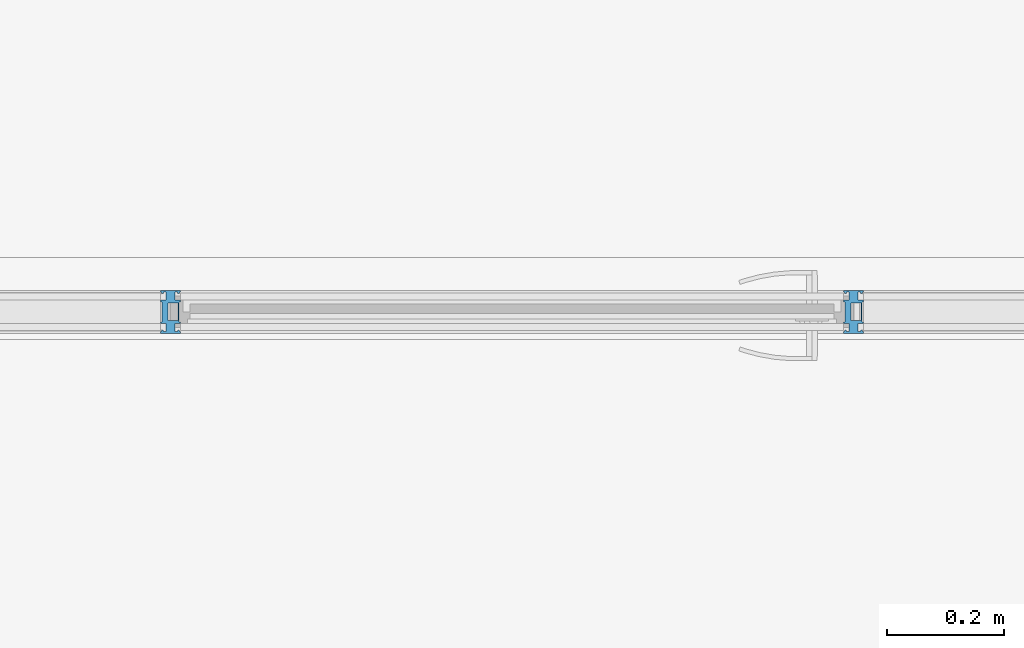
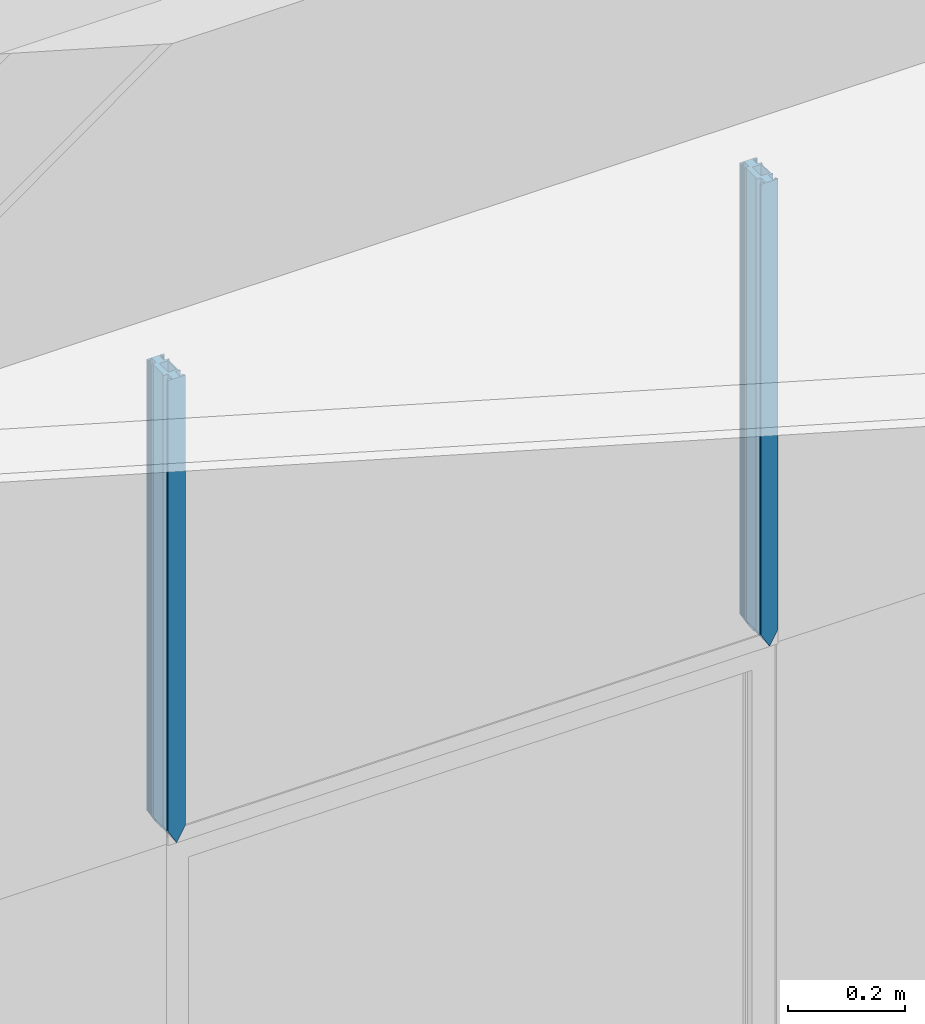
# One storey, part 7 of 43: 2 members, 1 element without a shape of its own.
"""IFC2X3 building model written with IfcOpenShell, lengths in millimetres."""

from ifc_helpers import new_model, entity, si_unit, converted_unit, derived_unit, money_unit, direction, frame, origin_with_axes, place, context, subcontext, project, spatial, faceted_brep, source, transform, mapped, material, material_list, type_object, element, aggregate, save


model = new_model("IFC2X3")

# Units and contexts
model_context = context("Model", 3, precision=0.01, world=origin_with_axes(), true_north=direction((0.0, 1.0)))
body_context = subcontext(model_context, "Body", "Model", "MODEL_VIEW")
ifc_project = project(units=[si_unit("LENGTHUNIT", "METRE", prefix="MILLI"), si_unit("AREAUNIT", "SQUARE_METRE"), si_unit("VOLUMEUNIT", "CUBIC_METRE"), converted_unit("PLANEANGLEUNIT", "DEGREE", entity("IfcPlaneAngleMeasure", 0.0174532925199), si_unit("PLANEANGLEUNIT", "RADIAN"), dimensions=[0, 0, 0, 0, 0, 0, 0]), si_unit("SOLIDANGLEUNIT", "STERADIAN"), money_unit("EUR"), converted_unit("TIMEUNIT", "Year", entity("IfcTimeMeasure", 31556926.0), si_unit("TIMEUNIT", "SECOND"), dimensions=[0, 0, 1, 0, 0, 0, 0]), si_unit("MASSUNIT", "GRAM", prefix="KILO"), si_unit("THERMODYNAMICTEMPERATUREUNIT", "DEGREE_CELSIUS"), si_unit("LUMINOUSINTENSITYUNIT", "LUMEN"), si_unit("ENERGYUNIT", "JOULE", prefix="MEGA"), derived_unit("THERMALCONDUCTANCEUNIT", [(si_unit("POWERUNIT", "WATT"), 1), (si_unit("LENGTHUNIT", "METRE"), -1), (si_unit("THERMODYNAMICTEMPERATUREUNIT", "KELVIN"), -1)]), derived_unit("SPECIFICHEATCAPACITYUNIT", [(si_unit("ENERGYUNIT", "JOULE"), 1), (si_unit("MASSUNIT", "GRAM", prefix="KILO"), -1), (si_unit("THERMODYNAMICTEMPERATUREUNIT", "KELVIN"), -1)]), derived_unit("MASSDENSITYUNIT", [(si_unit("MASSUNIT", "GRAM", prefix="KILO"), 1), (si_unit("VOLUMEUNIT", "CUBIC_METRE"), -1)])], contexts=[model_context])

# Site, building, storey
site_placement = place(None, origin_with_axes())
site = spatial("IfcSite", under=ifc_project, at=site_placement, Name="L.Koidula tn 11b", CompositionType="ELEMENT")
building_placement = place(site_placement, origin_with_axes())
building = spatial("IfcBuilding", under=site, at=building_placement, Name="Rakvere Riigigümnaasium", CompositionType="ELEMENT")
storey_placement = place(building_placement, frame((0.0, 0.0, 6665.0), z_axis=(0.0, 0.0, 1.0), x_axis=(1.0, 0.0, 0.0)))
storey = spatial("IfcBuildingStorey", under=building, at=storey_placement, Name="3.korrus +6,66", CompositionType="ELEMENT", Elevation=6665.0)

# Curtain wall, members
curtain_wall_type = type_object("IfcCurtainWallType", Name="Curtain Wall Type", PredefinedType="NOTDEFINED")
curtain_wall_placement = place(storey_placement, frame((58878.6347232, 19272.4397072, 0.0), z_axis=(0.0, 0.0, 1.0), x_axis=(1.0, 0.0, 0.0)))
curtain_wall = element("IfcCurtainWall", 1, at=curtain_wall_placement, inside=storey, type_object=curtain_wall_type, Name="SKLF-29")
ifc_material_1 = material(Name="Klaasvill")
ifc_material_2 = material(Name="Teras RAL7012")
ifc_material_list = material_list([ifc_material_1, ifc_material_2])
member_type = type_object("IfcMemberType", Name="Siseklaasfassaad-Vaheprofiil-Doubleline30 34 x 42", PredefinedType="MULLION")
shared_shape = source(origin_with_axes(), body_context, "Body", "Brep", [
    faceted_brep([(15.4955493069, 27.0307503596, 27.3450735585), (15.7655837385, 28.0385325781, 27.8216046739), (15.7655837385, 28.0385325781, 969.999980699), (15.4955493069, 27.0307503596, 969.999980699), (15.5126239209, 29.0161444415, 27.3752052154), (14.75780152, 26.2930025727, 26.0431663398), (13.7500193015, 26.0229681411, 24.2647280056), (12.742237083, 26.2930025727, 22.4862896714), (12.004489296, 27.0307503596, 21.1843824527), (11.987414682, 29.0161444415, 21.1542507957), (15.5126239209, 29.0161444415, 969.999980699), (11.987414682, 29.0161444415, 969.999980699), (12.004489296, 27.0307503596, 969.999980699), (12.742237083, 26.2930025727, 969.999980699), (13.7500193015, 26.0229681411, 969.999980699), (14.75780152, 26.2930025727, 969.999980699)], [[[0, 1, 2, 3]], [[4, 1, 0, 5, 6, 7, 8, 9]], [[1, 4, 10, 2]], [[3, 2, 10, 11, 12, 13, 14, 15]], [[5, 0, 3, 15]], [[6, 5, 15, 14]], [[7, 6, 14, 13]], [[8, 7, 13, 12]], [[9, 8, 12, 11]], [[4, 9, 11, 10]]]),
    faceted_brep([(11.987414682, -39.0161444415, 21.1542507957), (15.5126239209, -39.0161444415, 27.3752052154), (15.5126239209, -39.0161444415, 969.999980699), (11.987414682, -39.0161444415, 969.999980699), (15.4955493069, -37.0307503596, 27.3450735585), (11.7344548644, -38.0385325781, 20.7078513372), (12.004489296, -37.0307503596, 21.1843824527), (12.742237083, -36.2930025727, 22.4862896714), (13.7500193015, -36.0229681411, 24.2647280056), (14.75780152, -36.2930025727, 26.0431663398), (15.4955493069, -37.0307503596, 969.999980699), (12.004489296, -37.0307503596, 969.999980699), (11.7344548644, -38.0385325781, 969.999980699), (14.75780152, -36.2930025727, 969.999980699), (13.7500193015, -36.0229681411, 969.999980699), (12.742237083, -36.2930025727, 969.999980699)], [[[0, 1, 2, 3]], [[4, 1, 0, 5, 6, 7, 8, 9]], [[1, 4, 10, 2]], [[11, 12, 3, 2, 10, 13, 14, 15]], [[5, 0, 3, 12]], [[6, 5, 12, 11]], [[7, 6, 11, 15]], [[8, 7, 15, 14]], [[9, 8, 14, 13]], [[4, 9, 13, 10]]]),
    faceted_brep([(-12.004489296, 27.0307503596, 21.1843824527), (-11.7344548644, 28.0385325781, 20.7078513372), (-11.7344548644, 28.0385325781, 969.999980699), (-12.004489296, 27.0307503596, 969.999980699), (-11.987414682, 29.0161444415, 21.1542507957), (-12.742237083, 26.2930025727, 22.4862896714), (-13.7500193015, 26.0229681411, 24.2647280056), (-14.75780152, 26.2930025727, 26.0431663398), (-15.4955493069, 27.0307503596, 27.3450735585), (-15.7655837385, 28.0385325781, 27.8216046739), (-11.987414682, 29.0161444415, 969.999980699), (-12.742237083, 26.2930025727, 969.999980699), (-15.7655837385, 28.0385325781, 969.999980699), (-15.4955493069, 27.0307503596, 969.999980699), (-14.75780152, 26.2930025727, 969.999980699), (-13.7500193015, 26.0229681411, 969.999980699)], [[[0, 1, 2, 3]], [[4, 1, 0, 5, 6, 7, 8, 9]], [[1, 4, 10, 2]], [[11, 3, 2, 10, 12, 13, 14, 15]], [[5, 0, 3, 11]], [[6, 5, 11, 15]], [[7, 6, 15, 14]], [[8, 7, 14, 13]], [[9, 8, 13, 12]], [[4, 9, 12, 10]]]),
    faceted_brep([(-11.987414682, -39.0161444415, 21.1542507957), (-11.7344548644, -38.0385325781, 20.7078513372), (-11.7344548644, -38.0385325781, 969.999980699), (-11.987414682, -39.0161444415, 969.999980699), (-12.004489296, -37.0307503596, 21.1843824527), (-15.5126239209, -39.0161444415, 27.3752052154), (-15.4955493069, -37.0307503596, 27.3450735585), (-14.75780152, -36.2930025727, 26.0431663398), (-13.7500193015, -36.0229681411, 24.2647280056), (-12.742237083, -36.2930025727, 22.4862896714), (-12.004489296, -37.0307503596, 969.999980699), (-12.742237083, -36.2930025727, 969.999980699), (-13.7500193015, -36.0229681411, 969.999980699), (-14.75780152, -36.2930025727, 969.999980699), (-15.4955493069, -37.0307503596, 969.999980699), (-15.5126239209, -39.0161444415, 969.999980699)], [[[0, 1, 2, 3]], [[4, 1, 0, 5, 6, 7, 8, 9]], [[1, 4, 10, 2]], [[11, 12, 13, 14, 15, 3, 2, 10]], [[5, 0, 3, 15]], [[6, 5, 15, 14]], [[7, 6, 14, 13]], [[8, 7, 13, 12]], [[9, 8, 12, 11]], [[4, 9, 11, 10]]]),
    faceted_brep([(-12.8000002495, 10.0000001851, 22.588224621), (0.0, 10.0000001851, 0.0), (4.0000003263, 10.0000001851, 7.05882063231), (4.0000003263, 10.0000001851, 969.999980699), (-12.8000002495, 10.0000001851, 969.999980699), (-14.8000001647, 12.0000001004, 26.1176344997), (0.0, 12.0000001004, 0.0), (-12.8000002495, -20.0000001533, 22.588224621), (0.0, -20.0000001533, 0.0), (0.0, -22.0000000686, 0.0), (-14.8000001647, -22.0000000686, 26.1176344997), (14.8000003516, 12.0000001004, 26.1176348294), (14.8000003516, -22.0000000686, 26.1176348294), (4.0000003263, -20.0000001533, 7.05882063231), (4.0000003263, -20.0000001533, 969.999980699), (14.8000003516, 12.0000001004, 969.999980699), (-3.08905781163e-07, 12.0000001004, 969.999980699), (-14.8000001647, 12.0000001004, 969.999980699), (-14.8000001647, -22.0000000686, 969.999980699), (-3.08905781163e-07, -22.0000000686, 969.999980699), (14.8000003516, -22.0000000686, 969.999980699), (-12.8000002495, -20.0000001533, 969.999980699)], [[[0, 1, 2, 3, 4]], [[5, 6, 1, 0, 7, 8, 9, 10]], [[6, 11, 12, 9, 8, 13, 2, 1]], [[2, 13, 14, 3]], [[15, 16, 17, 18, 19, 20], [3, 14, 21, 4]], [[7, 0, 4, 21]], [[6, 5, 17, 16]], [[8, 7, 21, 14, 13]], [[10, 9, 19, 18]], [[5, 10, 18, 17]], [[11, 6, 16, 15]], [[12, 11, 15, 20]], [[9, 12, 20, 19]]]),
    faceted_brep([(17.0000193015, 29.0161446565, 30.0000193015), (17.0000193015, 32.0000000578, 30.0000193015), (17.0000193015, 32.0000000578, 969.999980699), (17.0000193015, 29.0161446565, 969.999980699), (0.0, 32.0000000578, 0.0), (15.5126239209, 29.0161444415, 27.3752052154), (11.987414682, 29.0161444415, 21.1542507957), (7.50000002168, 29.0161446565, 13.2352876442), (7.50000002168, 15.0000000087, 13.2352876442), (17.0000193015, 15.0000000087, 30.0000193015), (17.0000193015, 12.0, 30.0000193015), (14.8000003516, 12.0000001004, 26.1176348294), (0.0, 12.0, 0.0), (0.0, 32.0000000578, 969.999980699), (15.5126239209, 29.0161444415, 969.999980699), (0.0, 12.0, 969.999980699), (14.8000003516, 12.0000001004, 969.999980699), (17.0000193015, 12.0, 969.999980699), (17.0000193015, 15.0000000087, 969.999980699), (7.50000002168, 15.0000000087, 969.999980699), (7.50000002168, 29.0161446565, 969.999980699), (11.987414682, 29.0161444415, 969.999980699)], [[[0, 1, 2, 3]], [[4, 1, 0, 5, 6, 7, 8, 9, 10, 11, 12]], [[1, 4, 13, 2]], [[14, 3, 2, 13, 15, 16, 17, 18, 19, 20, 21]], [[5, 0, 3, 14]], [[6, 5, 14, 21]], [[7, 6, 21, 20]], [[8, 7, 20, 19]], [[9, 8, 19, 18]], [[10, 9, 18, 17]], [[11, 10, 17, 16]], [[12, 11, 16, 15]], [[4, 12, 15, 13]]]),
    faceted_brep([(17.0000193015, -24.9999999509, 30.0000193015), (17.0000193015, -21.9999999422, 30.0000193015), (17.0000193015, -21.9999999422, 969.999980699), (17.0000193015, -24.9999999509, 969.999980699), (14.8000003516, -22.0000000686, 26.1176348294), (7.50000002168, -24.9999999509, 13.2352876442), (7.50000002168, -39.0161445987, 13.2352876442), (11.987414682, -39.0161444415, 21.1542507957), (15.5126239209, -39.0161444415, 27.3752052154), (17.0000193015, -39.0161445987, 30.0000193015), (17.0000193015, -42.0, 30.0000193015), (0.0, -42.0, 0.0), (0.0, -21.9999999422, 0.0), (14.8000003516, -22.0000000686, 969.999980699), (0.0, -21.9999999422, 969.999980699), (0.0, -42.0, 969.999980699), (17.0000193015, -42.0, 969.999980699), (17.0000193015, -39.0161445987, 969.999980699), (15.5126239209, -39.0161444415, 969.999980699), (11.987414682, -39.0161444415, 969.999980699), (7.50000002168, -39.0161445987, 969.999980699), (7.50000002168, -24.9999999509, 969.999980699)], [[[0, 1, 2, 3]], [[4, 1, 0, 5, 6, 7, 8, 9, 10, 11, 12]], [[1, 4, 13, 2]], [[3, 2, 13, 14, 15, 16, 17, 18, 19, 20, 21]], [[5, 0, 3, 21]], [[6, 5, 21, 20]], [[7, 6, 20, 19]], [[8, 7, 19, 18]], [[9, 8, 18, 17]], [[10, 9, 17, 16]], [[11, 10, 16, 15]], [[12, 11, 15, 14]], [[4, 12, 14, 13]]]),
    faceted_brep([(0.0, 12.0, 0.0), (0.0, 32.0, 0.0), (0.0, 32.0, 969.999980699), (0.0, 12.0, 969.999980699), (-17.0000193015, 32.0, 30.0000193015), (-14.8000001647, 12.0000001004, 26.1176344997), (-17.0000193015, 12.0, 30.0000193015), (-17.0000193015, 15.0, 30.0000193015), (-7.49999999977, 15.0, 13.2352876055), (-7.49999999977, 29.0161444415, 13.2352876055), (-11.987414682, 29.0161444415, 21.1542507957), (-15.5126239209, 29.0161444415, 27.3752052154), (-17.0000193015, 29.0161444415, 30.0000193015), (-17.0000193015, 32.0, 969.999980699), (-17.0000193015, 15.0, 969.999980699), (-17.0000193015, 12.0, 969.999980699), (-14.8000001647, 12.0000001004, 969.999980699), (-17.0000193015, 29.0161444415, 969.999980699), (-15.5126239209, 29.0161444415, 969.999980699), (-11.987414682, 29.0161444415, 969.999980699), (-7.49999999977, 29.0161444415, 969.999980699), (-7.49999999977, 15.0, 969.999980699)], [[[0, 1, 2, 3]], [[4, 1, 0, 5, 6, 7, 8, 9, 10, 11, 12]], [[1, 4, 13, 2]], [[14, 15, 16, 3, 2, 13, 17, 18, 19, 20, 21]], [[5, 0, 3, 16]], [[6, 5, 16, 15]], [[7, 6, 15, 14]], [[8, 7, 14, 21]], [[9, 8, 21, 20]], [[10, 9, 20, 19]], [[11, 10, 19, 18]], [[12, 11, 18, 17]], [[4, 12, 17, 13]]]),
    faceted_brep([(0.0, -42.0, 0.0), (0.0, -22.0, 0.0), (0.0, -22.0, 969.999980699), (0.0, -42.0, 969.999980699), (-14.8000001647, -22.0000000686, 26.1176344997), (-17.0000193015, -42.0, 30.0000193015), (-17.0000193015, -39.0161444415, 30.0000193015), (-15.5126239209, -39.0161444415, 27.3752052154), (-11.987414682, -39.0161444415, 21.1542507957), (-7.49999999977, -39.0161444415, 13.2352876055), (-7.49999999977, -25.0, 13.2352876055), (-17.0000193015, -25.0, 30.0000193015), (-17.0000193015, -22.0, 30.0000193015), (-14.8000001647, -22.0000000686, 969.999980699), (-17.0000193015, -39.0161444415, 969.999980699), (-17.0000193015, -42.0, 969.999980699), (-17.0000193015, -22.0, 969.999980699), (-17.0000193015, -25.0, 969.999980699), (-7.49999999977, -25.0, 969.999980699), (-7.49999999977, -39.0161444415, 969.999980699), (-11.987414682, -39.0161444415, 969.999980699), (-15.5126239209, -39.0161444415, 969.999980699)], [[[0, 1, 2, 3]], [[4, 1, 0, 5, 6, 7, 8, 9, 10, 11, 12]], [[1, 4, 13, 2]], [[14, 15, 3, 2, 13, 16, 17, 18, 19, 20, 21]], [[5, 0, 3, 15]], [[6, 5, 15, 14]], [[7, 6, 14, 21]], [[8, 7, 21, 20]], [[9, 8, 20, 19]], [[10, 9, 19, 18]], [[11, 10, 18, 17]], [[12, 11, 17, 16]], [[4, 12, 16, 13]]]),
])
member_1_placement = place(curtain_wall_placement, frame((471.400001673, 0.0, 2400.0), z_axis=(0.0, 0.0, 1.0), x_axis=(-1.0, 0.0, 0.0)))
member_1 = element("IfcMember", 2, at=member_1_placement, type_object=member_type, material=ifc_material_list, Name="Frame-Siseklaasf-408", ObjectType="MULLION", context=body_context, shape_type="MappedRepresentation", body=[
    mapped(shared_shape, transform((0.0, 0.0, 0.0))),
])
member_2_placement = place(curtain_wall_placement, frame((1641.40000167, 0.0, 2400.0), z_axis=(0.0, 0.0, 1.0), x_axis=(-1.0, 0.0, 0.0)))
member_2 = element("IfcMember", 3, at=member_2_placement, type_object=member_type, material=ifc_material_list, Name="Frame-Siseklaasf-221", ObjectType="MULLION", context=body_context, shape_type="MappedRepresentation", body=[
    mapped(shared_shape, transform((0.0, 0.0, 0.0))),
])
aggregate(curtain_wall, [member_1, member_2])

save(model, "model.ifc")
